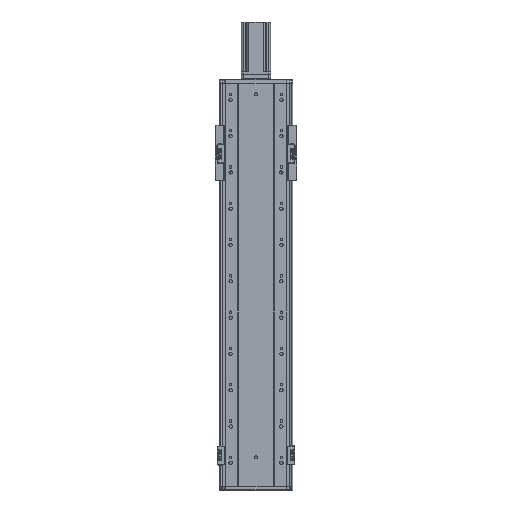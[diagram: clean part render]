
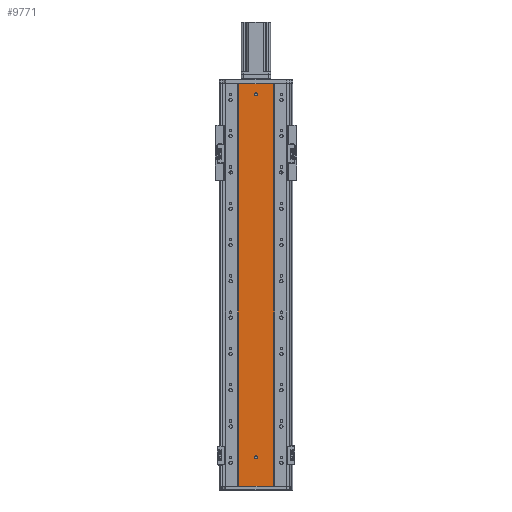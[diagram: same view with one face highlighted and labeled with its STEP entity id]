
A CAD part, front view. The second image highlights one B-rep face of the part: STEP entity #9771.
In plain terms, the highlighted planar face has unit normal (0, -1, 0).
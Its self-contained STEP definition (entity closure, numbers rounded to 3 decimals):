
#2237 = VERTEX_POINT ( 'NONE', #5632 ) ;
#2262 = VERTEX_POINT ( 'NONE', #5693 ) ;
#2278 = VERTEX_POINT ( 'NONE', #5690 ) ;
#2279 = VERTEX_POINT ( 'NONE', #5715 ) ;
#2605 = FACE_BOUND ( 'NONE', #4667, .T. ) ;
#2632 = FACE_OUTER_BOUND ( 'NONE', #4618, .T. ) ;
#2654 = FACE_BOUND ( 'NONE', #4659, .T. ) ;
#4170 = LINE ( 'NONE', #41801, #4212 ) ;
#4178 = LINE ( 'NONE', #41848, #4194 ) ;
#4194 = VECTOR ( 'NONE', #41850, 1000. ) ;
#4212 = VECTOR ( 'NONE', #41791, 1000. ) ;
#4245 = CIRCLE ( 'NONE', #40439, 4. ) ;
#4289 = CIRCLE ( 'NONE', #40463, 4. ) ;
#4618 = EDGE_LOOP ( 'NONE', ( #23444, #23353, #44580, #23455 ) ) ;
#4659 = EDGE_LOOP ( 'NONE', ( #23367, #23417 ) ) ;
#4667 = EDGE_LOOP ( 'NONE', ( #23349, #23369 ) ) ;
#5632 = CARTESIAN_POINT ( 'NONE',  ( 185.97, 79.476, 0. ) ) ;
#5690 = CARTESIAN_POINT ( 'NONE',  ( 86.97, 79.476, 1110. ) ) ;
#5693 = CARTESIAN_POINT ( 'NONE',  ( 185.97, 79.476, 1110. ) ) ;
#5715 = CARTESIAN_POINT ( 'NONE',  ( 86.97, 79.476, 0. ) ) ;
#6779 = PLANE ( 'NONE',  #36294 ) ;
#6781 = DIRECTION ( 'NONE',  ( 0., 0., 1. ) ) ;
#6794 = CARTESIAN_POINT ( 'NONE',  ( 0., 79.476, 1110. ) ) ;
#6802 = DIRECTION ( 'NONE',  ( 0., 1., 0. ) ) ;
#6970 = B_SPLINE_CURVE_WITH_KNOTS ( 'NONE', 3,
 ( #41852, #41855, #41841, #41836 ),
 .UNSPECIFIED., .F., .F.,
 ( 4, 4 ),
 ( 0., 1. ),
 .UNSPECIFIED. ) ;
#7042 = B_SPLINE_CURVE_WITH_KNOTS ( 'NONE', 3,
 ( #41904, #41895, #41899, #41896 ),
 .UNSPECIFIED., .F., .F.,
 ( 4, 4 ),
 ( 0., 1. ),
 .UNSPECIFIED. ) ;
#9771 = ADVANCED_FACE ( 'NONE', ( #2654, #2605, #2632 ), #6779, .F. ) ;
#22115 = VERTEX_POINT ( 'NONE', #28833 ) ;
#22124 = VERTEX_POINT ( 'NONE', #28885 ) ;
#22146 = VERTEX_POINT ( 'NONE', #28858 ) ;
#22174 = VERTEX_POINT ( 'NONE', #28938 ) ;
#23349 = ORIENTED_EDGE ( 'NONE', *, *, #30179, .F. ) ;
#23353 = ORIENTED_EDGE ( 'NONE', *, *, #30185, .F. ) ;
#23367 = ORIENTED_EDGE ( 'NONE', *, *, #30198, .F. ) ;
#23369 = ORIENTED_EDGE ( 'NONE', *, *, #39638, .F. ) ;
#23417 = ORIENTED_EDGE ( 'NONE', *, *, #39651, .F. ) ;
#23444 = ORIENTED_EDGE ( 'NONE', *, *, #30153, .T. ) ;
#23455 = ORIENTED_EDGE ( 'NONE', *, *, #30155, .T. ) ;
#28833 = CARTESIAN_POINT ( 'NONE',  ( 136.47, 79.476, 76. ) ) ;
#28858 = CARTESIAN_POINT ( 'NONE',  ( 136.47, 79.476, 84. ) ) ;
#28885 = CARTESIAN_POINT ( 'NONE',  ( 136.47, 79.476, 1084. ) ) ;
#28938 = CARTESIAN_POINT ( 'NONE',  ( 136.47, 79.476, 1076. ) ) ;
#30146 = EDGE_CURVE ( 'NONE', #2278, #2262, #4170, .T. ) ;
#30153 = EDGE_CURVE ( 'NONE', #2279, #2237, #4178, .T. ) ;
#30155 = EDGE_CURVE ( 'NONE', #2278, #2279, #6970, .T. ) ;
#30179 = EDGE_CURVE ( 'NONE', #22115, #22146, #4245, .T. ) ;
#30185 = EDGE_CURVE ( 'NONE', #2262, #2237, #7042, .T. ) ;
#30198 = EDGE_CURVE ( 'NONE', #22174, #22124, #4289, .T. ) ;
#30650 = DIRECTION ( 'NONE',  ( 0., 0., -1. ) ) ;
#30661 = CARTESIAN_POINT ( 'NONE',  ( 136.47, 79.476, 80. ) ) ;
#30679 = DIRECTION ( 'NONE',  ( 0., -1., 0. ) ) ;
#30725 = DIRECTION ( 'NONE',  ( 0., 0., -1. ) ) ;
#30732 = CARTESIAN_POINT ( 'NONE',  ( 136.47, 79.476, 1080. ) ) ;
#30735 = DIRECTION ( 'NONE',  ( 0., -1., 0. ) ) ;
#32237 = CIRCLE ( 'NONE', #40918, 4. ) ;
#32254 = CIRCLE ( 'NONE', #40937, 4. ) ;
#36294 = AXIS2_PLACEMENT_3D ( 'NONE', #6794, #6802, #6781 ) ;
#39638 = EDGE_CURVE ( 'NONE', #22146, #22115, #32254, .T. ) ;
#39651 = EDGE_CURVE ( 'NONE', #22124, #22174, #32237, .T. ) ;
#40439 = AXIS2_PLACEMENT_3D ( 'NONE', #41888, #41907, #41891 ) ;
#40463 = AXIS2_PLACEMENT_3D ( 'NONE', #41934, #41953, #41919 ) ;
#40918 = AXIS2_PLACEMENT_3D ( 'NONE', #30732, #30735, #30725 ) ;
#40937 = AXIS2_PLACEMENT_3D ( 'NONE', #30661, #30679, #30650 ) ;
#41791 = DIRECTION ( 'NONE',  ( 1., 0., 0. ) ) ;
#41801 = CARTESIAN_POINT ( 'NONE',  ( 0., 79.476, 1110. ) ) ;
#41836 = CARTESIAN_POINT ( 'NONE',  ( 86.97, 79.476, 0. ) ) ;
#41841 = CARTESIAN_POINT ( 'NONE',  ( 86.97, 79.476, 370. ) ) ;
#41848 = CARTESIAN_POINT ( 'NONE',  ( 0., 79.476, 0. ) ) ;
#41850 = DIRECTION ( 'NONE',  ( 1., 0., 0. ) ) ;
#41852 = CARTESIAN_POINT ( 'NONE',  ( 86.97, 79.476, 1110. ) ) ;
#41855 = CARTESIAN_POINT ( 'NONE',  ( 86.97, 79.476, 740. ) ) ;
#41888 = CARTESIAN_POINT ( 'NONE',  ( 136.47, 79.476, 80. ) ) ;
#41891 = DIRECTION ( 'NONE',  ( 0., 0., -1. ) ) ;
#41895 = CARTESIAN_POINT ( 'NONE',  ( 185.97, 79.476, 740. ) ) ;
#41896 = CARTESIAN_POINT ( 'NONE',  ( 185.97, 79.476, 0. ) ) ;
#41899 = CARTESIAN_POINT ( 'NONE',  ( 185.97, 79.476, 370. ) ) ;
#41904 = CARTESIAN_POINT ( 'NONE',  ( 185.97, 79.476, 1110. ) ) ;
#41907 = DIRECTION ( 'NONE',  ( 0., -1., 0. ) ) ;
#41919 = DIRECTION ( 'NONE',  ( 0., 0., -1. ) ) ;
#41934 = CARTESIAN_POINT ( 'NONE',  ( 136.47, 79.476, 1080. ) ) ;
#41953 = DIRECTION ( 'NONE',  ( 0., -1., 0. ) ) ;
#44580 = ORIENTED_EDGE ( 'NONE', *, *, #30146, .F. ) ;
